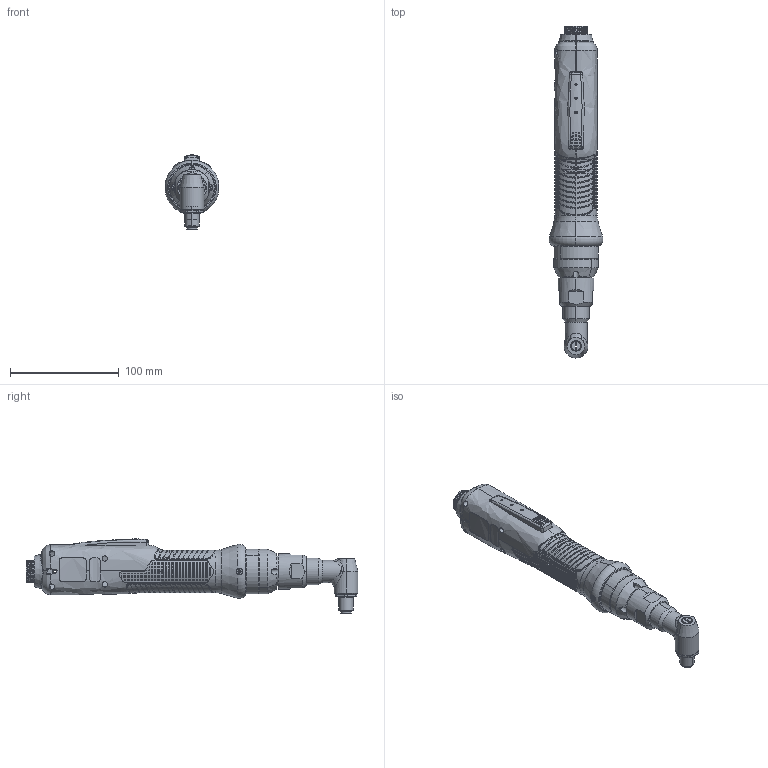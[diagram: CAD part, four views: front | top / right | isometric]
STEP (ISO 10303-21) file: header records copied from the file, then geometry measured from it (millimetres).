
FILE_DESCRIPTION (( 'STEP AP203' ), '1' );
FILE_NAME ('MDH3201,3202.STEP', '2021-03-08T01:29:22', ( '' ), ( '' ), 'SwSTEP 2.0', 'SolidWorks 2020', '' );
FILE_SCHEMA (( 'CONFIG_CONTROL_DESIGN' ));
Length unit declared in the file: millimetre
Products named in the file (1): MDH3201,3202
Bounding box: 49.44 x 305.6 x 68.2 mm (x, y, z)
Surface area: 51550.6 mm2 (no closed solid volume)
Topology: 0 solids, 125 shells, 2066 faces, 6981 edges, 4911 vertices
Faces by surface type: plane 1153, cylinder 521, bspline 305, cone 46, torus 25, sphere 16
Entity records: 100511 total; most frequent: CARTESIAN_POINT 47174, ORIENTED_EDGE 10847, DIRECTION 8780, EDGE_CURVE 6977, VERTEX_POINT 4909, AXIS2_PLACEMENT_3D 3024, B_SPLINE_CURVE_WITH_KNOTS 2957, LINE 2732
